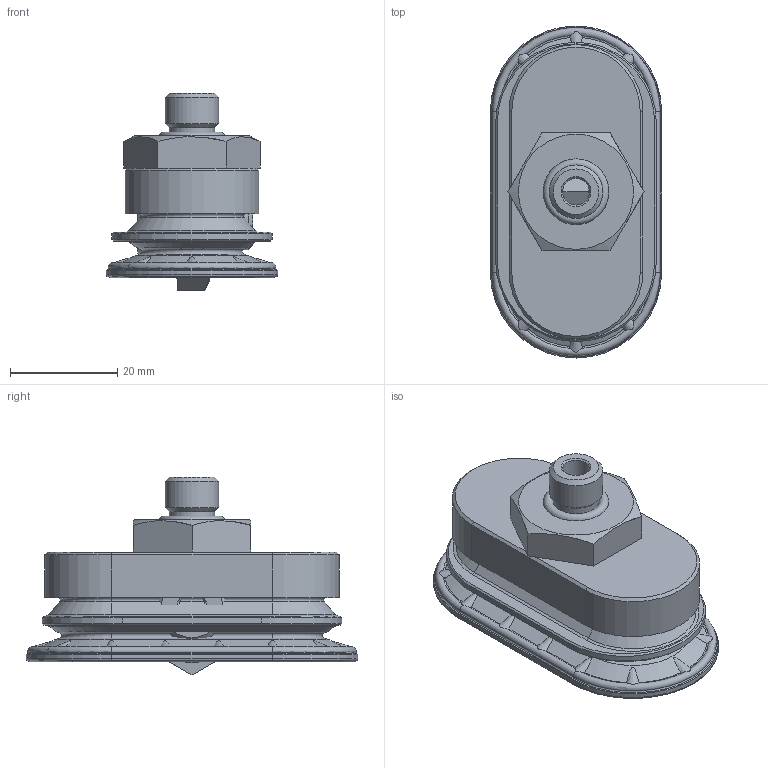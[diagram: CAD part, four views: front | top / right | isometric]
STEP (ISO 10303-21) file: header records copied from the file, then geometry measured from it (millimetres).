
FILE_DESCRIPTION( ( 'Unknown' ), '1' );
FILE_NAME( 'C:/Documents and Settings/Owner/官帕 拳搁/货 弃歹 (2)/VOBF30X60-18M.stp', 'Unknown', ( 'Unknown' ), ( 'Unknown' ), 'PSStep 10.0', 'Unknown', ' ' );
FILE_SCHEMA( ( 'AUTOMOTIVE_DESIGN { 1 0 10303 214 1 1 1 1 }' ) );
Length unit declared in the file: millimetre
Products named in the file (3): Assem1; VOBF 30x60_譆; VOBF 18M
Bounding box: 32 x 62 x 36.95 mm (x, y, z)
Surface area: 24656.3 mm2 (no closed solid volume)
Topology: 0 solids, 1436 shells, 1436 faces, 7182 edges, 7128 vertices
Faces by surface type: plane 822, cylinder 352, cone 208, torus 54
Full cylindrical faces by diameter (mm): 4.5 x4, 5 x2, 7 x4, 8.5 x2, 10 x2, 11.44 x2, 11.445 x2, 12.3 x2, 13.15 x2, 15 x2, 17 x2, 19 x2
Entity records: 44668 total; most frequent: CARTESIAN_POINT 13215, DIRECTION 4932, ORIENTED_EDGE 3560, EDGE_CURVE 3560, VERTEX_POINT 3560, LINE 1938, VECTOR 1938, AXIS2_PLACEMENT_3D 1497
